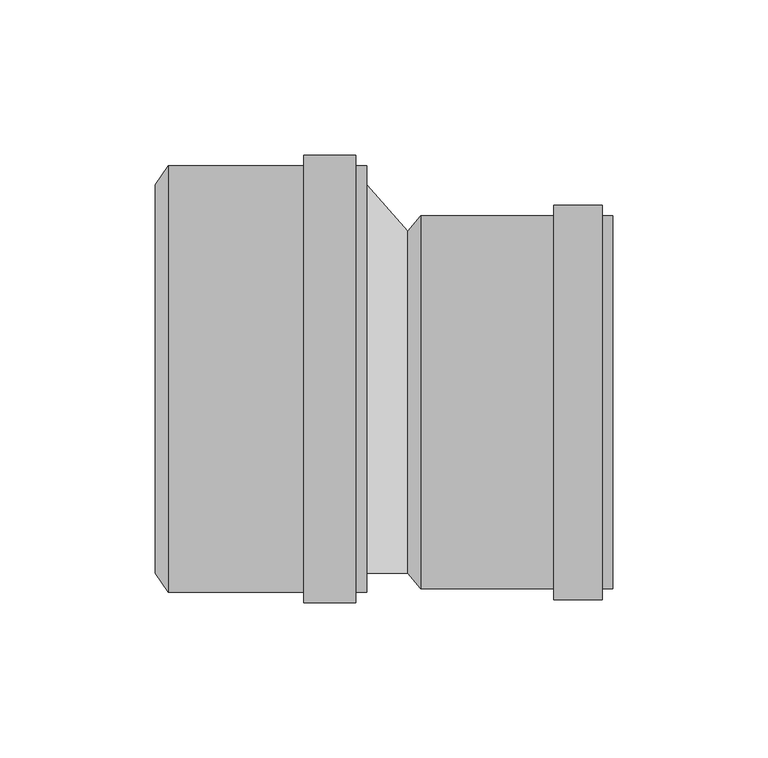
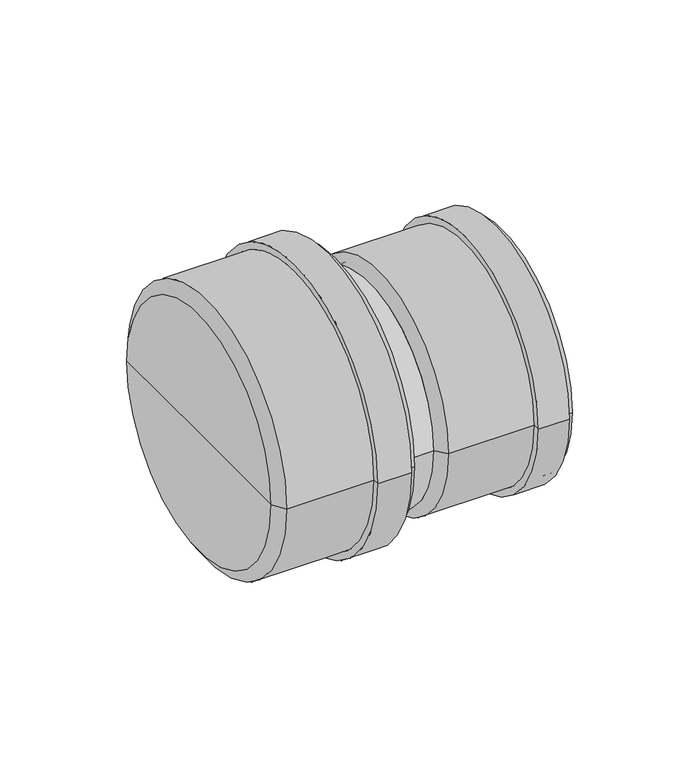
"""IFC4 building model written with IfcOpenShell, lengths in millimetres: pipe fitting geometry, pf_KGR_red-nes : pf_KGR_red-nes."""

from ifc_helpers import new_model, si_unit, frame, origin, place, context, project, spatial, polyline, circle_curve, source, transform, mapped, element, save
from ifc_brep_helpers import plane_surface, cylinder_surface, revolved_surface, spline_surface, advanced_brep


def pipe_fitting_9a41f693(model_context):
    return source(origin(), model_context, "Body", "AdvancedBrep", [
        advanced_brep(
        [(-68.0, -62.5, 0.0), (-68.0, 62.5, 0.0), (-63.9, 68.6, 0.0), (-63.9, -68.6, 0.0), (-68.0, 0.0, 0.0), (0.0, -68.6, 0.0), (0.0, 68.6, 0.0), (0.0, 62.5, 0.0), (0.0, -62.5, 0.0), (-3.4, -68.6, 0.0), (-3.4, 68.6, 0.0), (-3.4, -72.0, 0.0), (-3.4, 72.0, 0.0), (-20.2, -72.0, 0.0), (-20.2, 72.0, 0.0), (-20.2, -68.6, 0.0), (-20.2, 68.6, 0.0), (-63.9, -62.5, 0.0), (-63.9, 62.5, 0.0), (-63.9, 0.0, 0.0)],
        [
            (0, 1, circle_curve(frame((-68.0, 0.0, 0.0), z_axis=(1.0, 0.0, 0.0), x_axis=(0.0, 1.0, 0.0)), 62.5)),
            (1, 2),
            (2, 3, circle_curve(frame((-63.9, 0.0, 0.0), z_axis=(-1.0, 0.0, 0.0), x_axis=(0.0, 1.0, 0.0)), 68.6)),
            (3, 0),
            (1, 0, circle_curve(frame((-68.0, 0.0, 0.0), z_axis=(1.0, 0.0, 0.0), x_axis=(0.0, 1.0, 0.0)), 62.5)),
            (3, 2, circle_curve(frame((-63.9, 0.0, 0.0), z_axis=(-1.0, 0.0, 0.0), x_axis=(0.0, 1.0, 0.0)), 68.6)),
            (4, 1),
            (0, 4),
            (5, 6, circle_curve(frame((0.0, 0.0, 0.0), z_axis=(1.0, 0.0, 0.0), x_axis=(0.0, 1.0, 0.0)), 68.6)),
            (6, 7),
            (7, 8, circle_curve(frame((0.0, 0.0, 0.0), z_axis=(-1.0, 0.0, 0.0), x_axis=(0.0, 1.0, 0.0)), 62.5)),
            (8, 5),
            (6, 5, circle_curve(frame((0.0, 0.0, 0.0), z_axis=(1.0, 0.0, 0.0), x_axis=(0.0, 1.0, 0.0)), 68.6)),
            (8, 7, circle_curve(frame((0.0, 0.0, 0.0), z_axis=(-1.0, 0.0, 0.0), x_axis=(0.0, 1.0, 0.0)), 62.5)),
            (9, 10, circle_curve(frame((-3.4, 0.0, 0.0), z_axis=(1.0, 0.0, 0.0), x_axis=(0.0, 1.0, 0.0)), 68.6)),
            (10, 6),
            (5, 9),
            (10, 9, circle_curve(frame((-3.4, 0.0, 0.0), z_axis=(1.0, 0.0, 0.0), x_axis=(0.0, 1.0, 0.0)), 68.6)),
            (11, 12, circle_curve(frame((-3.4, 0.0, 0.0), z_axis=(1.0, 0.0, 0.0), x_axis=(0.0, 1.0, 0.0)), 72.0)),
            (12, 10),
            (9, 11),
            (12, 11, circle_curve(frame((-3.4, 0.0, 0.0), z_axis=(1.0, 0.0, 0.0), x_axis=(0.0, 1.0, 0.0)), 72.0)),
            (13, 14, circle_curve(frame((-20.2, 0.0, 0.0), z_axis=(1.0, 0.0, 0.0), x_axis=(0.0, 1.0, 0.0)), 72.0)),
            (14, 12),
            (11, 13),
            (14, 13, circle_curve(frame((-20.2, 0.0, 0.0), z_axis=(1.0, 0.0, 0.0), x_axis=(0.0, 1.0, 0.0)), 72.0)),
            (15, 16, circle_curve(frame((-20.2, 0.0, 0.0), z_axis=(1.0, 0.0, 0.0), x_axis=(0.0, 1.0, 0.0)), 68.6)),
            (16, 14),
            (13, 15),
            (16, 15, circle_curve(frame((-20.2, 0.0, 0.0), z_axis=(1.0, 0.0, 0.0), x_axis=(0.0, 1.0, 0.0)), 68.6)),
            (2, 16),
            (15, 3),
            (17, 18, circle_curve(frame((-63.9, 0.0, 0.0), z_axis=(1.0, 0.0, 0.0), x_axis=(0.0, 1.0, 0.0)), 62.5)),
            (18, 19),
            (19, 17),
            (18, 17, circle_curve(frame((-63.9, 0.0, 0.0), z_axis=(1.0, 0.0, 0.0), x_axis=(0.0, 1.0, 0.0)), 62.5)),
            (7, 18),
            (17, 8),
        ],
        [
            revolved_surface(polyline([(-63.9, 68.6, 0.0), (-68.0, 62.5, 0.0)]), (-68.0, 0.0, 0.0), (-1.0, 0.0, 0.0)),
            plane_surface(frame((-68.0, 0.0, 0.0), z_axis=(-1.0, 0.0, 0.0), x_axis=(0.0, 1.0, 0.0))),
            plane_surface(frame((0.0, 0.0, 0.0), z_axis=(1.0, 0.0, 0.0), x_axis=(0.0, 1.0, 0.0))),
            cylinder_surface(frame((-68.0, 0.0, 0.0), z_axis=(-1.0, 0.0, 0.0), x_axis=(0.0, 1.0, 0.0)), 68.6),
            plane_surface(frame((-3.4, 0.0, 0.0), z_axis=(1.0, 0.0, 0.0), x_axis=(0.0, 1.0, 0.0))),
            cylinder_surface(frame((-68.0, 0.0, 0.0), z_axis=(-1.0, 0.0, 0.0), x_axis=(0.0, 1.0, 0.0)), 72.0),
            plane_surface(frame((-20.2, 0.0, 0.0), z_axis=(-1.0, 0.0, 0.0), x_axis=(0.0, 1.0, 0.0))),
            plane_surface(frame((-63.9, 0.0, 0.0), z_axis=(1.0, 0.0, 0.0), x_axis=(0.0, 1.0, 0.0))),
            revolved_surface(polyline([(-63.9, 62.5, 0.0), (0.0, 62.5, 0.0)]), (-68.0, 0.0, 0.0), (-1.0, 0.0, 0.0)),
        ],
        [
            (0, [[1, 2, 3, 4]]),
            (0, [[5, -4, 6, -2]]),
            (1, [[7, -1, 8]]),
            (1, [[-8, -5, -7]]),
            (2, [[9, 10, 11, 12]]),
            (2, [[13, -12, 14, -10]]),
            (3, [[15, 16, -9, 17]]),
            (3, [[18, -17, -13, -16]]),
            (4, [[19, 20, -15, 21]]),
            (4, [[22, -21, -18, -20]]),
            (5, [[23, 24, -19, 25]]),
            (5, [[26, -25, -22, -24]]),
            (6, [[27, 28, -23, 29]]),
            (6, [[30, -29, -26, -28]]),
            (3, [[-3, 31, -27, 32]]),
            (3, [[-6, -32, -30, -31]]),
            (7, [[33, 34, 35]]),
            (7, [[36, -35, -34]]),
            (8, [[-11, 37, -33, 38]]),
            (8, [[-14, -38, -36, -37]]),
        ],
    ),
        advanced_brep(
        [(13.25, -62.5, 0.0), (13.25, 47.5, 0.0), (17.45, 52.6, 0.0), (17.45, -67.6, 0.0), (13.25, -7.5, 0.0), (79.25, -67.6, 0.0), (79.25, 52.6, 0.0), (79.25, 47.5, 0.0), (79.25, -62.5, 0.0), (75.85, -67.6, 0.0), (75.85, 52.6, 0.0), (75.85, -71.0, 0.0), (75.85, 56.0, 0.0), (60.35, -71.0, 0.0), (60.35, 56.0, 0.0), (60.35, -67.6, 0.0), (60.35, 52.6, 0.0), (17.45, -62.5, 0.0), (17.45, 47.5, 0.0), (17.45, -7.5, 0.0)],
        [
            (0, 1, circle_curve(frame((13.25, -7.5, 0.0), z_axis=(1.0, 0.0, 0.0), x_axis=(0.0, 1.0, 0.0)), 55.0)),
            (1, 2),
            (2, 3, circle_curve(frame((17.45, -7.5, 0.0), z_axis=(-1.0, 0.0, 0.0), x_axis=(0.0, 1.0, 0.0)), 60.1)),
            (3, 0),
            (1, 0, circle_curve(frame((13.25, -7.5, 0.0), z_axis=(1.0, 0.0, 0.0), x_axis=(0.0, 1.0, 0.0)), 55.0)),
            (3, 2, circle_curve(frame((17.45, -7.5, 0.0), z_axis=(-1.0, 0.0, 0.0), x_axis=(0.0, 1.0, 0.0)), 60.1)),
            (4, 1),
            (0, 4),
            (5, 6, circle_curve(frame((79.25, -7.5, 0.0), z_axis=(1.0, 0.0, 0.0), x_axis=(0.0, 1.0, 0.0)), 60.1)),
            (6, 7),
            (7, 8, circle_curve(frame((79.25, -7.5, 0.0), z_axis=(-1.0, 0.0, 0.0), x_axis=(0.0, 1.0, 0.0)), 55.0)),
            (8, 5),
            (6, 5, circle_curve(frame((79.25, -7.5, 0.0), z_axis=(1.0, 0.0, 0.0), x_axis=(0.0, 1.0, 0.0)), 60.1)),
            (8, 7, circle_curve(frame((79.25, -7.5, 0.0), z_axis=(-1.0, 0.0, 0.0), x_axis=(0.0, 1.0, 0.0)), 55.0)),
            (9, 10, circle_curve(frame((75.85, -7.5, 0.0), z_axis=(1.0, 0.0, 0.0), x_axis=(0.0, 1.0, 0.0)), 60.1)),
            (10, 6),
            (5, 9),
            (10, 9, circle_curve(frame((75.85, -7.5, 0.0), z_axis=(1.0, 0.0, 0.0), x_axis=(0.0, 1.0, 0.0)), 60.1)),
            (11, 12, circle_curve(frame((75.85, -7.5, 0.0), z_axis=(1.0, 0.0, 0.0), x_axis=(0.0, 1.0, 0.0)), 63.5)),
            (12, 10),
            (9, 11),
            (12, 11, circle_curve(frame((75.85, -7.5, 0.0), z_axis=(1.0, 0.0, 0.0), x_axis=(0.0, 1.0, 0.0)), 63.5)),
            (13, 14, circle_curve(frame((60.35, -7.5, 0.0), z_axis=(1.0, 0.0, 0.0), x_axis=(0.0, 1.0, 0.0)), 63.5)),
            (14, 12),
            (11, 13),
            (14, 13, circle_curve(frame((60.35, -7.5, 0.0), z_axis=(1.0, 0.0, 0.0), x_axis=(0.0, 1.0, 0.0)), 63.5)),
            (15, 16, circle_curve(frame((60.35, -7.5, 0.0), z_axis=(1.0, 0.0, 0.0), x_axis=(0.0, 1.0, 0.0)), 60.1)),
            (16, 14),
            (13, 15),
            (16, 15, circle_curve(frame((60.35, -7.5, 0.0), z_axis=(1.0, 0.0, 0.0), x_axis=(0.0, 1.0, 0.0)), 60.1)),
            (2, 16),
            (15, 3),
            (17, 18, circle_curve(frame((17.45, -7.5, 0.0), z_axis=(1.0, 0.0, 0.0), x_axis=(0.0, 1.0, 0.0)), 55.0)),
            (18, 19),
            (19, 17),
            (18, 17, circle_curve(frame((17.45, -7.5, 0.0), z_axis=(1.0, 0.0, 0.0), x_axis=(0.0, 1.0, 0.0)), 55.0)),
            (7, 18),
            (17, 8),
        ],
        [
            revolved_surface(polyline([(17.45, 52.6, 0.0), (13.25, 47.5, 0.0)]), (13.25, -7.5, 0.0), (-1.0, 0.0, 0.0)),
            plane_surface(frame((13.25, -7.5, 0.0), z_axis=(-1.0, 0.0, 0.0), x_axis=(0.0, 1.0, 0.0))),
            plane_surface(frame((79.25, -7.5, 0.0), z_axis=(1.0, 0.0, 0.0), x_axis=(0.0, 1.0, 0.0))),
            cylinder_surface(frame((13.25, -7.5, 0.0), z_axis=(-1.0, 0.0, 0.0), x_axis=(0.0, 1.0, 0.0)), 60.1),
            plane_surface(frame((75.85, -7.5, 0.0), z_axis=(1.0, 0.0, 0.0), x_axis=(0.0, 1.0, 0.0))),
            cylinder_surface(frame((13.25, -7.5, 0.0), z_axis=(-1.0, 0.0, 0.0), x_axis=(0.0, 1.0, 0.0)), 63.5),
            plane_surface(frame((60.35, -7.5, 0.0), z_axis=(-1.0, 0.0, 0.0), x_axis=(0.0, 1.0, 0.0))),
            plane_surface(frame((17.45, -7.5, 0.0), z_axis=(1.0, 0.0, 0.0), x_axis=(0.0, 1.0, 0.0))),
            revolved_surface(polyline([(17.45, 47.5, 0.0), (79.25, 47.5, 0.0)]), (13.25, -7.5, 0.0), (-1.0, 0.0, 0.0)),
        ],
        [
            (0, [[1, 2, 3, 4]]),
            (0, [[5, -4, 6, -2]]),
            (1, [[7, -1, 8]]),
            (1, [[-8, -5, -7]]),
            (2, [[9, 10, 11, 12]]),
            (2, [[13, -12, 14, -10]]),
            (3, [[15, 16, -9, 17]]),
            (3, [[18, -17, -13, -16]]),
            (4, [[19, 20, -15, 21]]),
            (4, [[22, -21, -18, -20]]),
            (5, [[23, 24, -19, 25]]),
            (5, [[26, -25, -22, -24]]),
            (6, [[27, 28, -23, 29]]),
            (6, [[30, -29, -26, -28]]),
            (3, [[-3, 31, -27, 32]]),
            (3, [[-6, -32, -30, -31]]),
            (7, [[33, 34, 35]]),
            (7, [[36, -35, -34]]),
            (8, [[-11, 37, -33, 38]]),
            (8, [[-14, -38, -36, -37]]),
        ],
    ),
        advanced_brep(
        [(13.25, -62.5, 0.0), (13.25, 47.5, 0.0), (0.0, -62.5, 0.0), (0.0, 62.5, 0.0)],
        [
            (0, 1, circle_curve(frame((13.25, -7.5, 0.0), z_axis=(1.0, 0.0, 0.0), x_axis=(0.0, 1.0, 0.0)), 55.0)),
            (1, 0, circle_curve(frame((13.25, -7.5, 0.0), z_axis=(1.0, 0.0, 0.0), x_axis=(0.0, 1.0, 0.0)), 55.0)),
            (2, 3, circle_curve(frame((0.0, 0.0, 0.0), z_axis=(-1.0, 0.0, 0.0), x_axis=(0.0, 1.0, 0.0)), 62.5)),
            (3, 2, circle_curve(frame((0.0, 0.0, 0.0), z_axis=(-1.0, 0.0, 0.0), x_axis=(0.0, 1.0, 0.0)), 62.5)),
            (3, 1),
            (0, 2),
        ],
        [
            plane_surface(frame((13.25, -7.5, 0.0), z_axis=(1.0, 0.0, 0.0), x_axis=(0.0, 0.0, -1.0))),
            plane_surface(frame((0.0, 0.0, 0.0), z_axis=(-1.0, 0.0, 0.0), x_axis=(0.0, 0.0, -1.0))),
            spline_surface(2, 1, [[(0.0, -62.5, 0.0), (13.25, -62.5, 0.0)], [(0.0, -62.5, -62.5), (13.25, -62.5, -55.0)], [(0.0, 0.0, -62.5), (13.25, -7.5, -55.0)], [(0.0, 62.5, -62.5), (13.25, 47.5, -55.0)], [(0.0, 62.5, 0.0), (13.25, 47.5, 0.0)]], [3, 2, 3], [2, 2], [0.0, 1.0, 2.0], [0.0, 1.0], weights=[[1.0, 1.0], [0.7071067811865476, 0.7071067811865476], [1.0, 1.0], [0.7071067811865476, 0.7071067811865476], [1.0, 1.0]]),
            spline_surface(2, 1, [[(0.0, 62.5, 0.0), (13.25, 47.5, 0.0)], [(0.0, 62.5, 62.5), (13.25, 47.5, 55.0)], [(0.0, 0.0, 62.5), (13.25, -7.5, 55.0)], [(0.0, -62.5, 62.5), (13.25, -62.5, 55.0)], [(0.0, -62.5, 0.0), (13.25, -62.5, 0.0)]], [3, 2, 3], [2, 2], [0.0, 1.0, 2.0], [0.0, 1.0], weights=[[1.0, 1.0], [0.7071067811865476, 0.7071067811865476], [1.0, 1.0], [0.7071067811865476, 0.7071067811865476], [1.0, 1.0]]),
        ],
        [
            (0, [[1, 2]]),
            (1, [[3, 4]]),
            (2, [[-4, 5, -1, 6]]),
            (3, [[-3, -6, -2, -5]]),
        ],
    ),
    ])


if __name__ == "__main__":
    model = new_model("IFC4")
    model_context = context("Model", 3, world=origin())
    ifc_project = project(units=[si_unit("LENGTHUNIT", "METRE", prefix="MILLI")], contexts=[model_context])
    site = spatial("IfcSite", under=ifc_project)
    building = spatial("IfcBuilding", under=site)
    placement = place(None, origin())
    pipe_fitting_shape = pipe_fitting_9a41f693(model_context)
    element("IfcPipeFitting", 1, ObjectType="pf_KGR_red-nes : pf_KGR_red-nes", at=placement, inside=building, context=model_context, shape_type="MappedRepresentation", body=[
        mapped(pipe_fitting_shape, transform((0.0, 0.0, 0.0), x_axis=(1.0, 0.0, 0.0), y_axis=(0.0, 1.0, 0.0), z_axis=(0.0, 0.0, 1.0))),
    ])
    save(model, "model.ifc")
